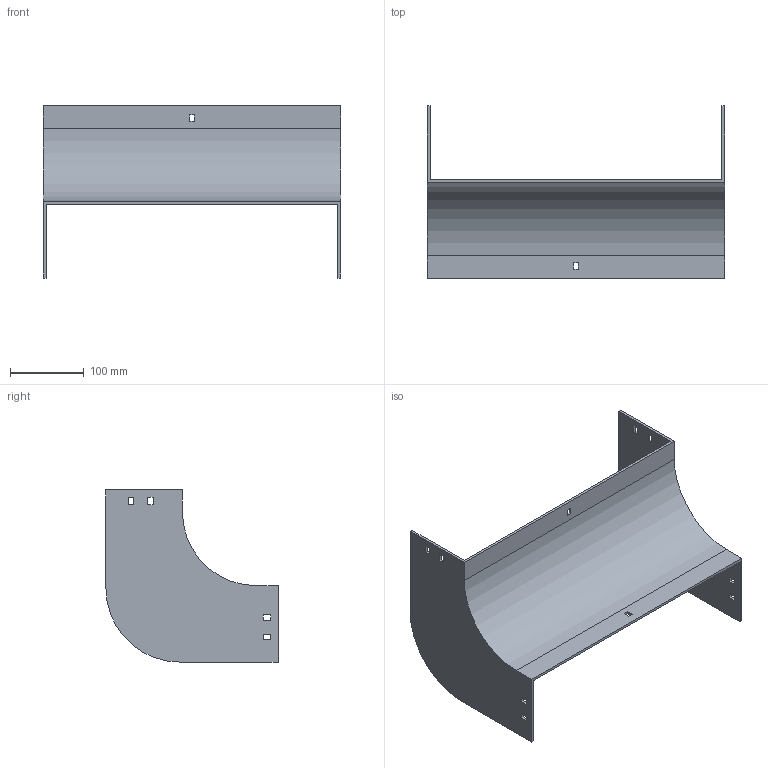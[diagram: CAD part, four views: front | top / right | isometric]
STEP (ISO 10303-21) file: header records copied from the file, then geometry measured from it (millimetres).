
FILE_DESCRIPTION (( 'STEP AP214' ), '1' );
FILE_NAME ('33F1D400.step', '2025-02-21T12:51:58', ( '' ), ( '' ), 'SwSTEP 2.0', 'SolidWorks 2023', '' );
FILE_SCHEMA (( 'AUTOMOTIVE_DESIGN' ));
Length unit declared in the file: millimetre
Products named in the file (1): 33F1D400
Bounding box: 404 x 234 x 234 mm (x, y, z)
Volume: 568074.2 mm3; surface area: 332974.2 mm2
Topology: 1 solids, 1 shells, 58 faces, 168 edges, 112 vertices
Faces by surface type: plane 54, cylinder 4
Entity records: 1943 total; most frequent: CARTESIAN_POINT 339, ORIENTED_EDGE 336, DIRECTION 294, EDGE_CURVE 168, VECTOR 160, LINE 160, VERTEX_POINT 112, EDGE_LOOP 78
